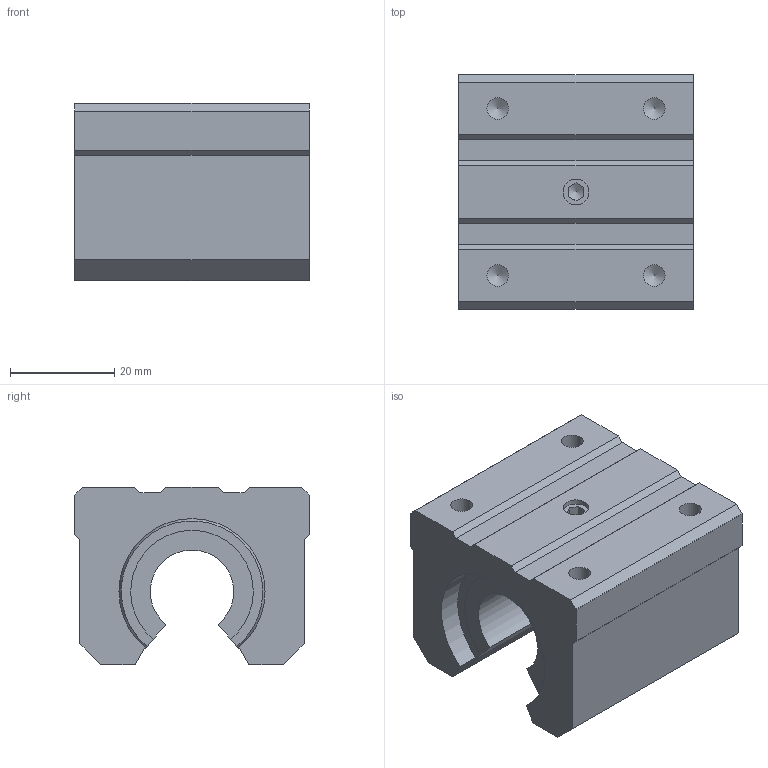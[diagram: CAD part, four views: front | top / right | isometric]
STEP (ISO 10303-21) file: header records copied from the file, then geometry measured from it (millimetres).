
FILE_DESCRIPTION((''),'2;1');
FILE_NAME('D:\製品 (図面)\カタログ用3D\GHA16H.stp','2010-06-07T16:10:10',('Tsuchiya'),(''),'Autodesk Inventor 10','Autodesk Inventor 10','');
FILE_SCHEMA(('AUTOMOTIVE_DESIGN { 1 0 10303 214 1 1 1 1 }'));
Length unit declared in the file: millimetre
Products named in the file (1): GHA16H
Bounding box: 45 x 45 x 34 mm (x, y, z)
Volume: 47649.3 mm3; surface area: 12423.9 mm2
Topology: 1 solids, 1 shells, 69 faces, 197 edges, 127 vertices
Faces by surface type: plane 41, cylinder 15, bspline 10, torus 2, cone 1
Entity records: 2262 total; most frequent: CARTESIAN_POINT 564, ORIENTED_EDGE 356, DIRECTION 330, EDGE_CURVE 178, VECTOR 126, LINE 126, VERTEX_POINT 118, AXIS2_PLACEMENT_3D 102
